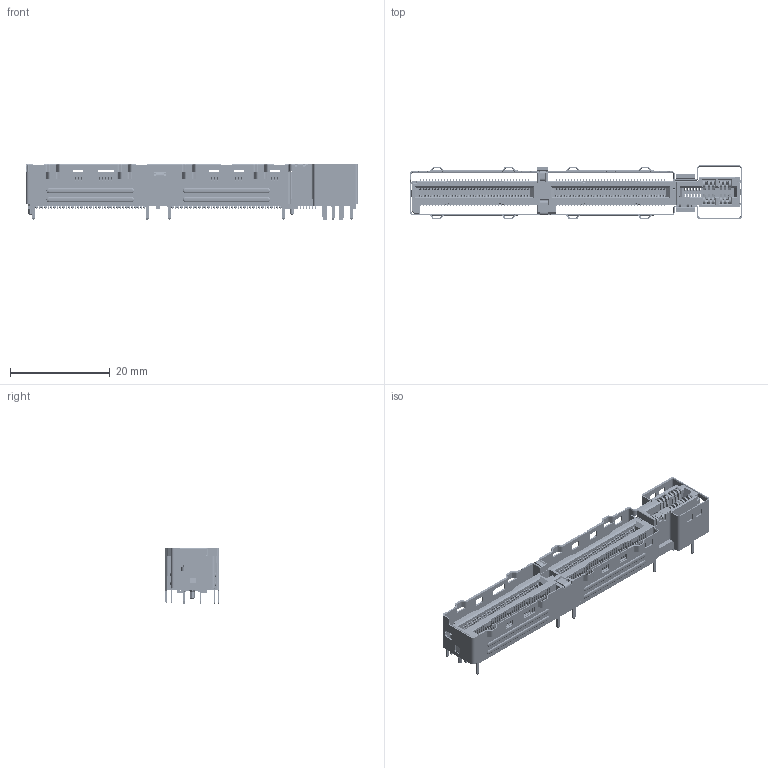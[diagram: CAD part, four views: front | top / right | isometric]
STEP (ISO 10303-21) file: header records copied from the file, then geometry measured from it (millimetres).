
FILE_DESCRIPTION((''),'2;1');
FILE_NAME('22222','2025-07-22T13:47:58',('bfme-njl'),(''),'CREO PARAMETRIC BY PTC INC, 2019010','CREO PARAMETRIC BY PTC INC, 2019010','');
FILE_SCHEMA(('AUTOMOTIVE_DESIGN { 1 0 10303 214 1 1 1 1 }'));
Products named in the file (1): 22222
Bounding box: 66.6 x 10.95 x 11.1 mm (x, y, z)
Volume: 1771.5 mm3; surface area: 8013.1 mm2
Topology: 1 solids, 13 shells, 13629 faces, 38589 edges, 25099 vertices
Faces by surface type: plane 9159, cylinder 3990, torus 383, cone 59, bspline 22, sphere 16
Entity records: 492663 total; most frequent: CARTESIAN_POINT 91796, ORIENTED_EDGE 77110, DIRECTION 70794, EDGE_CURVE 38573, VECTOR 28498, LINE 28498, VERTEX_POINT 25099, AXIS2_PLACEMENT_3D 21148
